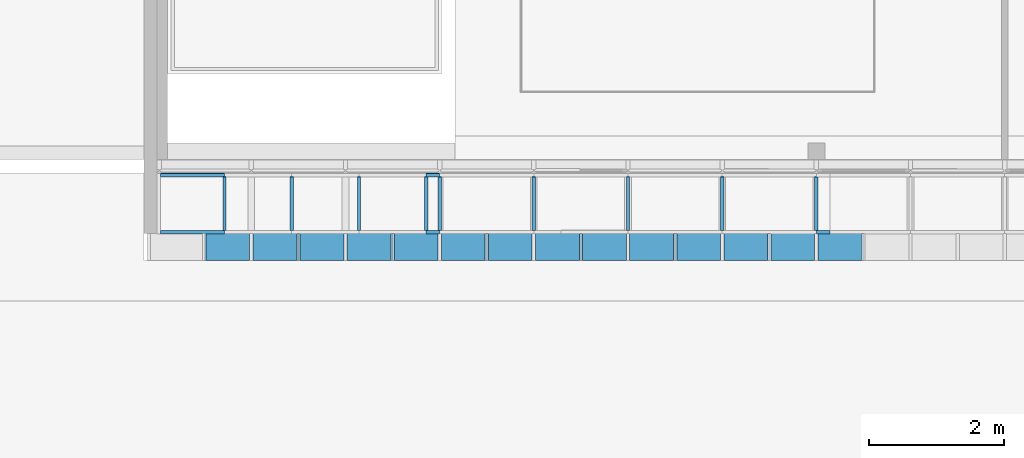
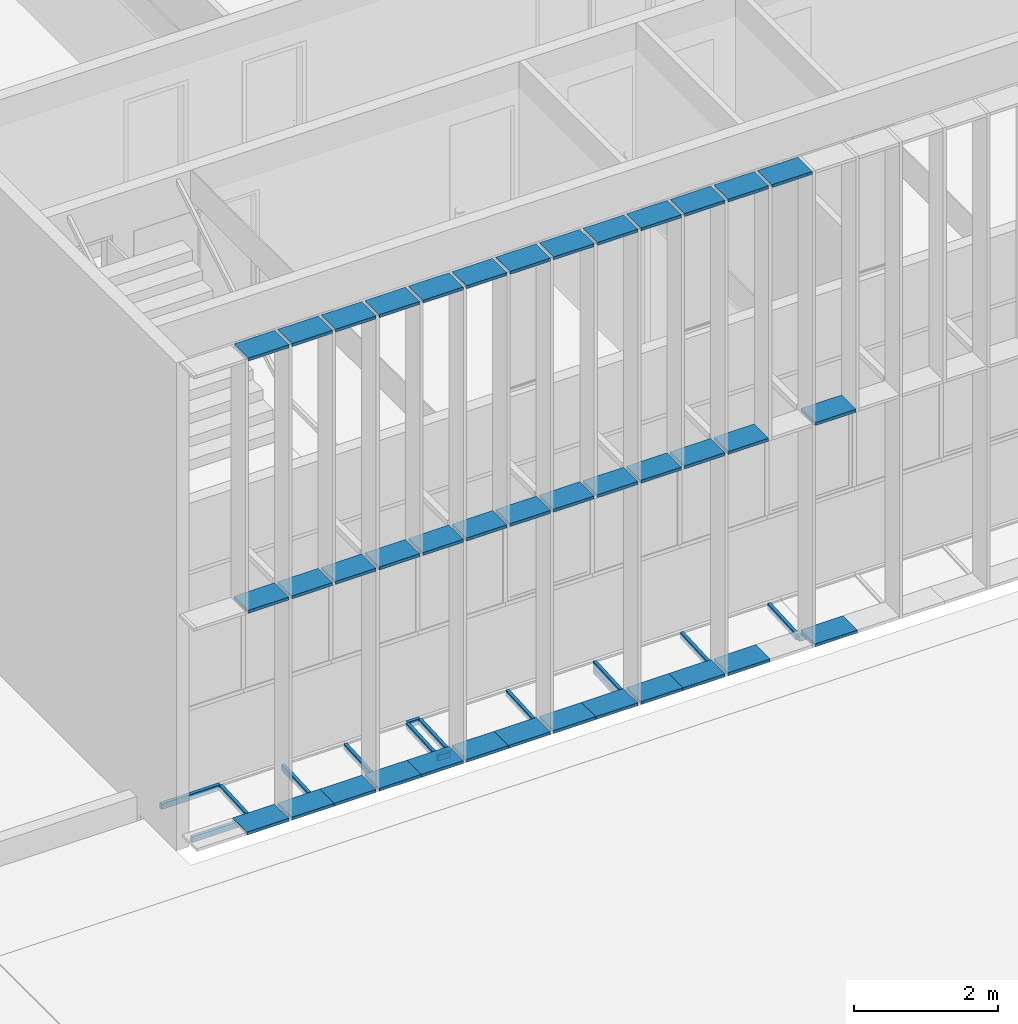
# One storey, part 20 of 106: 54 members, 2 elements without a shape of their own.
"""IFC2X3 building model written with IfcOpenShell, lengths in centimetres."""

from ifc_helpers import new_model, entity, si_unit, converted_unit, derived_unit, direction, frame, origin, origin_2d_with_axis, place, context, subcontext, project, spatial, rectangle, extrude, source, transform, mapped, material, type_object, type_shapes, element, aggregate, save


model = new_model("IFC2X3")

# Units and contexts
model_context = context("Model", 3, precision=0.001, world=origin(), true_north=direction((6.12303176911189e-17, 1.0)))
body_context = subcontext(model_context, "Body", "Model", "MODEL_VIEW")
ifc_project = project(units=[si_unit("LENGTHUNIT", "METRE", prefix="CENTI"), si_unit("AREAUNIT", "SQUARE_METRE"), si_unit("VOLUMEUNIT", "CUBIC_METRE"), converted_unit("PLANEANGLEUNIT", "DEGREE", entity("IfcRatioMeasure", 0.0174532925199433), si_unit("PLANEANGLEUNIT", "RADIAN"), dimensions=[0, 0, 0, 0, 0, 0, 0]), si_unit("MASSUNIT", "GRAM", prefix="KILO"), derived_unit("MASSDENSITYUNIT", [(si_unit("MASSUNIT", "GRAM", prefix="KILO"), 1), (si_unit("LENGTHUNIT", "METRE"), -3)]), si_unit("TIMEUNIT", "SECOND"), si_unit("FREQUENCYUNIT", "HERTZ"), si_unit("THERMODYNAMICTEMPERATUREUNIT", "DEGREE_CELSIUS"), derived_unit("THERMALTRANSMITTANCEUNIT", [(si_unit("MASSUNIT", "GRAM", prefix="KILO"), 1), (si_unit("THERMODYNAMICTEMPERATUREUNIT", "KELVIN"), -1), (si_unit("TIMEUNIT", "SECOND"), -3)]), derived_unit("VOLUMETRICFLOWRATEUNIT", [(si_unit("LENGTHUNIT", "METRE"), 3), (si_unit("TIMEUNIT", "SECOND"), -1)]), si_unit("ELECTRICCURRENTUNIT", "AMPERE"), si_unit("ELECTRICVOLTAGEUNIT", "VOLT"), si_unit("POWERUNIT", "WATT"), si_unit("FORCEUNIT", "NEWTON", prefix="KILO"), si_unit("ILLUMINANCEUNIT", "LUX"), si_unit("LUMINOUSFLUXUNIT", "LUMEN"), si_unit("LUMINOUSINTENSITYUNIT", "CANDELA"), derived_unit("USERDEFINED", [(si_unit("MASSUNIT", "GRAM", prefix="KILO"), -1), (si_unit("LENGTHUNIT", "METRE"), -2), (si_unit("TIMEUNIT", "SECOND"), 3), (si_unit("LUMINOUSFLUXUNIT", "LUMEN"), 1)]), derived_unit("LINEARVELOCITYUNIT", [(si_unit("LENGTHUNIT", "METRE"), 1), (si_unit("TIMEUNIT", "SECOND"), -1)]), si_unit("PRESSUREUNIT", "PASCAL"), derived_unit("USERDEFINED", [(si_unit("LENGTHUNIT", "METRE"), -2), (si_unit("MASSUNIT", "GRAM", prefix="KILO"), 1), (si_unit("TIMEUNIT", "SECOND"), -2)])], contexts=[model_context])

# Site, building, storey
site_placement = place(None, frame((-2781.94577612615, 7442.24238424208, 0.0)))
site = spatial("IfcSite", under=ifc_project, at=site_placement, Name="Default", CompositionType="ELEMENT")
building_placement = place(site_placement, origin())
building = spatial("IfcBuilding", under=site, at=building_placement, CompositionType="ELEMENT")
storey_placement = place(building_placement, frame((0.0, 0.0, 422.0)))
storey = spatial("IfcBuildingStorey", under=building, at=storey_placement, Name="Toiture - Cuisine", CompositionType="ELEMENT", Elevation=421.999999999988)

# Roof, members
curtain_wall_type_1 = type_object("IfcCurtainWallType", Name="Vitres inclinées:Toit en verre 1 m x 2 m", PredefinedType="NOTDEFINED")
roof_placement = place(building_placement, origin())
roof = element("IfcRoof", 1, at=roof_placement, inside=storey, type_object=curtain_wall_type_1, Name="Vitres inclinées:Toit en verre 1 m x 2 m", ObjectType="Vitres inclinées:Toit en verre 1 m x 2 m", ShapeType="NOTDEFINED")
ifc_material_1 = material(Name="Plastique, blanc opaque")
member_type_1 = type_object("IfcMemberType", Name="100 x 50mm", PredefinedType="MEMBER")
shared_shape_1 = source(origin(), body_context, "Body", "SweptSolid", [
    extrude(rectangle(XDim=10.0, YDim=5.0, at=origin_2d_with_axis()), frame((-2.5, 0.0, -95.0), z_axis=(0.0, 0.0, 1.0), x_axis=(0.0, -1.0, 0.0)), (0.0, 0.0, 1.0), 95.0000000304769),
])
type_shapes(member_type_1, [shared_shape_1])
member_1_placement = place(building_placement, frame((-8404.49987766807, -1950.34071342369, 362.709847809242), z_axis=(-1.0, 0.0, 0.0), x_axis=(0.0, 0.998629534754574, 0.0523359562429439)))
member_1 = element("IfcMember", 2, at=member_1_placement, type_object=member_type_1, material=ifc_material_1, Name="Meneau rectangulaire:100 x 50mm", ObjectType="Meneau rectangulaire:100 x 50mm", context=body_context, shape_type="MappedRepresentation", body=[
    mapped(shared_shape_1, transform((0.0, 0.0, 0.0), scale=1.0)),
])
member_type_2 = type_object("IfcMemberType", Name="100 x 50mm", PredefinedType="MEMBER")
shared_shape_2 = source(origin(), body_context, "Body", "SweptSolid", [
    extrude(rectangle(XDim=10.0, YDim=5.0, at=origin_2d_with_axis()), frame((-2.5, 0.0, -20.0), z_axis=(0.0, 0.0, 1.0), x_axis=(0.0, -1.0, 0.0)), (0.0, 0.0, 1.0), 19.9999999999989),
])
type_shapes(member_type_2, [shared_shape_2])
member_2_placement = place(building_placement, frame((-8009.49987763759, -1950.34071342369, 362.709847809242), z_axis=(-1.0, 0.0, 0.0), x_axis=(0.0, 0.998629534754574, 0.0523359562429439)))
member_2 = element("IfcMember", 3, at=member_2_placement, type_object=member_type_2, material=ifc_material_1, Name="Meneau rectangulaire:100 x 50mm", ObjectType="Meneau rectangulaire:100 x 50mm", context=body_context, shape_type="MappedRepresentation", body=[
    mapped(shared_shape_2, transform((0.0, 0.0, 0.0), scale=1.0)),
])
member_type_3 = type_object("IfcMemberType", Name="100 x 50mm", PredefinedType="MEMBER")
shared_shape_3 = source(origin(), body_context, "Body", "SweptSolid", [
    extrude(rectangle(XDim=10.0, YDim=5.0, at=origin_2d_with_axis()), frame((-2.5, 0.0, -95.0), z_axis=(0.0, 0.0, 1.0), x_axis=(0.0, -1.0, 0.0)), (0.0, 0.0, 1.0), 95.0000000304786),
])
type_shapes(member_type_3, [shared_shape_3])
member_3_placement = place(building_placement, frame((-8309.49987763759, -2040.34071342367, 357.99314767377), z_axis=(1.0, 0.0, 0.0), x_axis=(0.0, -0.998629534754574, -0.0523359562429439)))
member_3 = element("IfcMember", 4, at=member_3_placement, type_object=member_type_3, material=ifc_material_1, Name="Meneau rectangulaire:100 x 50mm", ObjectType="Meneau rectangulaire:100 x 50mm", context=body_context, shape_type="MappedRepresentation", body=[
    mapped(shared_shape_3, transform((0.0, 0.0, 0.0), scale=1.0)),
])
member_type_4 = type_object("IfcMemberType", Name="100 x 50mm", PredefinedType="MEMBER")
shared_shape_4 = source(origin(), body_context, "Body", "SweptSolid", [
    extrude(rectangle(XDim=10.0, YDim=5.0, at=origin_2d_with_axis()), frame((-2.5, 0.0, -20.0), z_axis=(0.0, 0.0, 1.0), x_axis=(0.0, -1.0, 0.0)), (0.0, 0.0, 1.0), 19.9999999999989),
])
type_shapes(member_type_4, [shared_shape_4])
member_4_placement = place(building_placement, frame((-7989.49987763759, -2040.34071342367, 357.99314767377), z_axis=(1.0, 0.0, 0.0), x_axis=(0.0, -0.998629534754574, -0.0523359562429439)))
member_4 = element("IfcMember", 5, at=member_4_placement, type_object=member_type_4, material=ifc_material_1, Name="Meneau rectangulaire:100 x 50mm", ObjectType="Meneau rectangulaire:100 x 50mm", context=body_context, shape_type="MappedRepresentation", body=[
    mapped(shared_shape_4, transform((0.0, 0.0, 0.0), scale=1.0)),
])
member_type_5 = type_object("IfcMemberType", Name="100 x 50mm", PredefinedType="MEMBER")
shared_shape_5 = source(origin(), body_context, "Body", "SweptSolid", [
    extrude(rectangle(XDim=10.0, YDim=5.0, at=origin_2d_with_axis()), frame((-2.5, 0.0, -20.0001640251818), z_axis=(0.0, 0.0, 1.0), x_axis=(0.0, -1.0, 0.0)), (0.0, 0.0, 1.0), 20.0001640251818),
])
type_shapes(member_type_5, [shared_shape_5])
member_5_placement = place(building_placement, frame((-7409.49987763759, -2040.34071342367, 357.99314767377), z_axis=(1.0, 0.0, 0.0), x_axis=(0.0, -0.998629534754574, -0.0523359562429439)))
member_5 = element("IfcMember", 6, at=member_5_placement, type_object=member_type_5, material=ifc_material_1, Name="Meneau rectangulaire:100 x 50mm", ObjectType="Meneau rectangulaire:100 x 50mm", context=body_context, shape_type="MappedRepresentation", body=[
    mapped(shared_shape_5, transform((0.0, 0.0, 0.0), scale=1.0)),
])
member_type_6 = type_object("IfcMemberType", Name="100 x 50mm", PredefinedType="MEMBER")
shared_shape_6 = source(origin(), body_context, "Body", "SweptSolid", [
    extrude(rectangle(XDim=10.0, YDim=5.0, at=origin_2d_with_axis()), frame((0.0, 0.0, -80.1235111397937), z_axis=(0.0, 0.0, 1.0), x_axis=(0.0, -1.0, 0.0)), (0.0, 0.0, 1.0), 80.1235111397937),
])
type_shapes(member_type_6, [shared_shape_6])
member_6_placement = place(building_placement, frame((-8309.49987763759, -1955.33386109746, 362.448168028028), z_axis=(0.0, 0.998629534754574, 0.0523359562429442), x_axis=(1.0, 0.0, 0.0)))
member_6 = element("IfcMember", 7, at=member_6_placement, type_object=member_type_6, material=ifc_material_1, Name="Meneau rectangulaire:100 x 50mm", ObjectType="Meneau rectangulaire:100 x 50mm", context=body_context, shape_type="MappedRepresentation", body=[
    mapped(shared_shape_6, transform((0.0, 0.0, 0.0), scale=1.0)),
])
member_7_placement = place(building_placement, frame((-8209.49987763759, -1955.33386109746, 362.448168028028), z_axis=(0.0, 0.998629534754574, 0.0523359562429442), x_axis=(1.0, 0.0, 0.0)))
member_7 = element("IfcMember", 8, at=member_7_placement, type_object=member_type_6, material=ifc_material_1, Name="Meneau rectangulaire:100 x 50mm", ObjectType="Meneau rectangulaire:100 x 50mm", context=body_context, shape_type="MappedRepresentation", body=[
    mapped(shared_shape_6, transform((0.0, 0.0, 0.0), scale=1.0)),
])
member_8_placement = place(building_placement, frame((-8109.49987763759, -1955.33386109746, 362.448168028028), z_axis=(0.0, 0.998629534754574, 0.0523359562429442), x_axis=(1.0, 0.0, 0.0)))
member_8 = element("IfcMember", 9, at=member_8_placement, type_object=member_type_6, material=ifc_material_1, Name="Meneau rectangulaire:100 x 50mm", ObjectType="Meneau rectangulaire:100 x 50mm", context=body_context, shape_type="MappedRepresentation", body=[
    mapped(shared_shape_6, transform((0.0, 0.0, 0.0), scale=1.0)),
])
member_9_placement = place(building_placement, frame((-8009.49987763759, -1955.33386109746, 362.448168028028), z_axis=(0.0, 0.998629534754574, 0.0523359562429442), x_axis=(1.0, 0.0, 0.0)))
member_9 = element("IfcMember", 10, at=member_9_placement, type_object=member_type_6, material=ifc_material_1, Name="Meneau rectangulaire:100 x 50mm", ObjectType="Meneau rectangulaire:100 x 50mm", context=body_context, shape_type="MappedRepresentation", body=[
    mapped(shared_shape_6, transform((0.0, 0.0, 0.0), scale=1.0)),
])
member_10_placement = place(building_placement, frame((-7989.49987763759, -1955.33386109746, 362.448168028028), z_axis=(0.0, 0.998629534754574, 0.0523359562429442), x_axis=(1.0, 0.0, 0.0)))
member_10 = element("IfcMember", 11, at=member_10_placement, type_object=member_type_6, material=ifc_material_1, Name="Meneau rectangulaire:100 x 50mm", ObjectType="Meneau rectangulaire:100 x 50mm", context=body_context, shape_type="MappedRepresentation", body=[
    mapped(shared_shape_6, transform((0.0, 0.0, 0.0), scale=1.0)),
])
member_11_placement = place(building_placement, frame((-7849.49987763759, -1955.33386109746, 362.448168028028), z_axis=(0.0, 0.998629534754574, 0.0523359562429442), x_axis=(1.0, 0.0, 0.0)))
member_11 = element("IfcMember", 12, at=member_11_placement, type_object=member_type_6, material=ifc_material_1, Name="Meneau rectangulaire:100 x 50mm", ObjectType="Meneau rectangulaire:100 x 50mm", context=body_context, shape_type="MappedRepresentation", body=[
    mapped(shared_shape_6, transform((0.0, 0.0, 0.0), scale=1.0)),
])
member_12_placement = place(building_placement, frame((-7709.49987763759, -1955.07218131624, 352.455020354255), z_axis=(0.0, 0.998629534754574, 0.0523359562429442), x_axis=(1.0, 0.0, 0.0)))
member_12 = element("IfcMember", 13, at=member_12_placement, type_object=member_type_6, material=ifc_material_1, Name="Meneau rectangulaire:100 x 50mm", ObjectType="Meneau rectangulaire:100 x 50mm", context=body_context, shape_type="MappedRepresentation", body=[
    mapped(shared_shape_6, transform((0.0, 0.0, 0.0), scale=1.0)),
])
member_13_placement = place(building_placement, frame((-7709.49987763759, -1955.33386109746, 362.448168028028), z_axis=(0.0, 0.998629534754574, 0.0523359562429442), x_axis=(1.0, 0.0, 0.0)))
member_13 = element("IfcMember", 14, at=member_13_placement, type_object=member_type_6, material=ifc_material_1, Name="Meneau rectangulaire:100 x 50mm", ObjectType="Meneau rectangulaire:100 x 50mm", context=body_context, shape_type="MappedRepresentation", body=[
    mapped(shared_shape_6, transform((0.0, 0.0, 0.0), scale=1.0)),
])
member_14_placement = place(building_placement, frame((-7569.49987763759, -1955.33386109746, 362.448168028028), z_axis=(0.0, 0.998629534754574, 0.0523359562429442), x_axis=(1.0, 0.0, 0.0)))
member_14 = element("IfcMember", 15, at=member_14_placement, type_object=member_type_6, material=ifc_material_1, Name="Meneau rectangulaire:100 x 50mm", ObjectType="Meneau rectangulaire:100 x 50mm", context=body_context, shape_type="MappedRepresentation", body=[
    mapped(shared_shape_6, transform((0.0, 0.0, 0.0), scale=1.0)),
])
member_15_placement = place(building_placement, frame((-7429.49987763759, -1955.33386109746, 362.448168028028), z_axis=(0.0, 0.998629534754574, 0.0523359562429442), x_axis=(1.0, 0.0, 0.0)))
member_15 = element("IfcMember", 16, at=member_15_placement, type_object=member_type_6, material=ifc_material_1, Name="Meneau rectangulaire:100 x 50mm", ObjectType="Meneau rectangulaire:100 x 50mm", context=body_context, shape_type="MappedRepresentation", body=[
    mapped(shared_shape_6, transform((0.0, 0.0, 0.0), scale=1.0)),
])
aggregate(roof, [member_1, member_2, member_3, member_4, member_5, member_6, member_7, member_8, member_9, member_10, member_11, member_12, member_13, member_14, member_15])

# Curtain wall, members
curtain_wall_type_2 = type_object("IfcCurtainWallType", Name="Mur-rideau:Epines - 400x30mm", PredefinedType="NOTDEFINED")
curtain_wall_placement = place(building_placement, origin())
curtain_wall = element("IfcCurtainWall", 17, at=curtain_wall_placement, inside=storey, type_object=curtain_wall_type_2, Name="Mur-rideau:Epines - 400x30mm", ObjectType="Mur-rideau:Epines - 400x30mm")
ifc_material_2 = material(Name="Aluminium")
member_type_7 = type_object("IfcMemberType", Name="Epine sud (400x50 mm)", PredefinedType="MEMBER")
shared_shape_7 = source(origin(), body_context, "Body", "SweptSolid", [
    extrude(rectangle(XDim=40.0, YDim=5.0, at=origin_2d_with_axis()), frame((-2.5, 0.0, -65.0), z_axis=(0.0, 0.0, 1.0), x_axis=(0.0, -1.0, 0.0)), (0.0, 0.0, 1.0), 64.9999999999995),
])
type_shapes(member_type_7, [shared_shape_7])
member_16_placement = place(building_placement, frame((-8271.99987763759, -2060.07903364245, 1176.0), z_axis=(1.0, 0.0, 0.0), x_axis=(0.0, 0.0, 1.0)))
member_16 = element("IfcMember", 18, at=member_16_placement, type_object=member_type_7, material=ifc_material_2, Name="Meneau rectangulaire:Epine sud (400x50 mm)", ObjectType="Meneau rectangulaire:Epine sud (400x50 mm)", context=body_context, shape_type="MappedRepresentation", body=[
    mapped(shared_shape_7, transform((0.0, 0.0, 0.0), scale=1.0)),
])
member_17_placement = place(building_placement, frame((-8131.99987763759, -2060.07903364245, 1176.0), z_axis=(1.0, 0.0, 0.0), x_axis=(0.0, 0.0, 1.0)))
member_17 = element("IfcMember", 19, at=member_17_placement, type_object=member_type_7, material=ifc_material_2, Name="Meneau rectangulaire:Epine sud (400x50 mm)", ObjectType="Meneau rectangulaire:Epine sud (400x50 mm)", context=body_context, shape_type="MappedRepresentation", body=[
    mapped(shared_shape_7, transform((0.0, 0.0, 0.0), scale=1.0)),
])
member_18_placement = place(building_placement, frame((-7991.9998776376, -2060.07903364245, 1176.0), z_axis=(1.0, 0.0, 0.0), x_axis=(0.0, 0.0, 1.0)))
member_18 = element("IfcMember", 20, at=member_18_placement, type_object=member_type_7, material=ifc_material_2, Name="Meneau rectangulaire:Epine sud (400x50 mm)", ObjectType="Meneau rectangulaire:Epine sud (400x50 mm)", context=body_context, shape_type="MappedRepresentation", body=[
    mapped(shared_shape_7, transform((0.0, 0.0, 0.0), scale=1.0)),
])
member_19_placement = place(building_placement, frame((-7851.99987763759, -2060.07903364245, 1176.0), z_axis=(1.0, 0.0, 0.0), x_axis=(0.0, 0.0, 1.0)))
member_19 = element("IfcMember", 21, at=member_19_placement, type_object=member_type_7, material=ifc_material_2, Name="Meneau rectangulaire:Epine sud (400x50 mm)", ObjectType="Meneau rectangulaire:Epine sud (400x50 mm)", context=body_context, shape_type="MappedRepresentation", body=[
    mapped(shared_shape_7, transform((0.0, 0.0, 0.0), scale=1.0)),
])
member_20_placement = place(building_placement, frame((-7711.99987763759, -2060.07903364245, 1176.0), z_axis=(1.0, 0.0, 0.0), x_axis=(0.0, 0.0, 1.0)))
member_20 = element("IfcMember", 22, at=member_20_placement, type_object=member_type_7, material=ifc_material_2, Name="Meneau rectangulaire:Epine sud (400x50 mm)", ObjectType="Meneau rectangulaire:Epine sud (400x50 mm)", context=body_context, shape_type="MappedRepresentation", body=[
    mapped(shared_shape_7, transform((0.0, 0.0, 0.0), scale=1.0)),
])
member_21_placement = place(building_placement, frame((-7571.99987763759, -2060.07903364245, 1176.0), z_axis=(1.0, 0.0, 0.0), x_axis=(0.0, 0.0, 1.0)))
member_21 = element("IfcMember", 23, at=member_21_placement, type_object=member_type_7, material=ifc_material_2, Name="Meneau rectangulaire:Epine sud (400x50 mm)", ObjectType="Meneau rectangulaire:Epine sud (400x50 mm)", context=body_context, shape_type="MappedRepresentation", body=[
    mapped(shared_shape_7, transform((0.0, 0.0, 0.0), scale=1.0)),
])
member_22_placement = place(building_placement, frame((-7431.9998776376, -2060.07903364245, 1176.0), z_axis=(1.0, 0.0, 0.0), x_axis=(0.0, 0.0, 1.0)))
member_22 = element("IfcMember", 24, at=member_22_placement, type_object=member_type_7, material=ifc_material_2, Name="Meneau rectangulaire:Epine sud (400x50 mm)", ObjectType="Meneau rectangulaire:Epine sud (400x50 mm)", context=body_context, shape_type="MappedRepresentation", body=[
    mapped(shared_shape_7, transform((0.0, 0.0, 0.0), scale=1.0)),
])
member_23_placement = place(building_placement, frame((-8201.99987763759, -2060.07903364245, 1176.0), z_axis=(1.0, 0.0, 0.0), x_axis=(0.0, 0.0, 1.0)))
member_23 = element("IfcMember", 25, at=member_23_placement, type_object=member_type_7, material=ifc_material_2, Name="Meneau rectangulaire:Epine sud (400x50 mm)", ObjectType="Meneau rectangulaire:Epine sud (400x50 mm)", context=body_context, shape_type="MappedRepresentation", body=[
    mapped(shared_shape_7, transform((0.0, 0.0, 0.0), scale=1.0)),
])
member_24_placement = place(building_placement, frame((-8061.99987763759, -2060.07903364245, 1176.0), z_axis=(1.0, 0.0, 0.0), x_axis=(0.0, 0.0, 1.0)))
member_24 = element("IfcMember", 26, at=member_24_placement, type_object=member_type_7, material=ifc_material_2, Name="Meneau rectangulaire:Epine sud (400x50 mm)", ObjectType="Meneau rectangulaire:Epine sud (400x50 mm)", context=body_context, shape_type="MappedRepresentation", body=[
    mapped(shared_shape_7, transform((0.0, 0.0, 0.0), scale=1.0)),
])
member_25_placement = place(building_placement, frame((-7921.99987763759, -2060.07903364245, 1176.0), z_axis=(1.0, 0.0, 0.0), x_axis=(0.0, 0.0, 1.0)))
member_25 = element("IfcMember", 27, at=member_25_placement, type_object=member_type_7, material=ifc_material_2, Name="Meneau rectangulaire:Epine sud (400x50 mm)", ObjectType="Meneau rectangulaire:Epine sud (400x50 mm)", context=body_context, shape_type="MappedRepresentation", body=[
    mapped(shared_shape_7, transform((0.0, 0.0, 0.0), scale=1.0)),
])
member_26_placement = place(building_placement, frame((-7781.9998776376, -2060.07903364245, 1176.0), z_axis=(1.0, 0.0, 0.0), x_axis=(0.0, 0.0, 1.0)))
member_26 = element("IfcMember", 28, at=member_26_placement, type_object=member_type_7, material=ifc_material_2, Name="Meneau rectangulaire:Epine sud (400x50 mm)", ObjectType="Meneau rectangulaire:Epine sud (400x50 mm)", context=body_context, shape_type="MappedRepresentation", body=[
    mapped(shared_shape_7, transform((0.0, 0.0, 0.0), scale=1.0)),
])
member_27_placement = place(building_placement, frame((-7641.99987763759, -2060.07903364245, 1176.0), z_axis=(1.0, 0.0, 0.0), x_axis=(0.0, 0.0, 1.0)))
member_27 = element("IfcMember", 29, at=member_27_placement, type_object=member_type_7, material=ifc_material_2, Name="Meneau rectangulaire:Epine sud (400x50 mm)", ObjectType="Meneau rectangulaire:Epine sud (400x50 mm)", context=body_context, shape_type="MappedRepresentation", body=[
    mapped(shared_shape_7, transform((0.0, 0.0, 0.0), scale=1.0)),
])
member_28_placement = place(building_placement, frame((-7501.99987763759, -2060.07903364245, 1176.0), z_axis=(1.0, 0.0, 0.0), x_axis=(0.0, 0.0, 1.0)))
member_28 = element("IfcMember", 30, at=member_28_placement, type_object=member_type_7, material=ifc_material_2, Name="Meneau rectangulaire:Epine sud (400x50 mm)", ObjectType="Meneau rectangulaire:Epine sud (400x50 mm)", context=body_context, shape_type="MappedRepresentation", body=[
    mapped(shared_shape_7, transform((0.0, 0.0, 0.0), scale=1.0)),
])
member_type_8 = type_object("IfcMemberType", Name="Epine sud (400x50 mm)", PredefinedType="MEMBER")
shared_shape_8 = source(origin(), body_context, "Body", "SweptSolid", [
    extrude(rectangle(XDim=40.0, YDim=5.0, at=origin_2d_with_axis()), frame((-2.5, 0.0, -67.4999999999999), z_axis=(0.0, 0.0, 1.0), x_axis=(0.0, -1.0, 0.0)), (0.0, 0.0, 1.0), 67.5000000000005),
])
type_shapes(member_type_8, [shared_shape_8])
member_29_placement = place(building_placement, frame((-8266.99987763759, -2060.07903364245, 367.449291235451), z_axis=(-1.0, 0.0, 0.0), x_axis=(0.0, 0.0, -1.0)))
member_29 = element("IfcMember", 31, at=member_29_placement, type_object=member_type_8, material=ifc_material_2, Name="Meneau rectangulaire:Epine sud (400x50 mm)", ObjectType="Meneau rectangulaire:Epine sud (400x50 mm)", context=body_context, shape_type="MappedRepresentation", body=[
    mapped(shared_shape_8, transform((0.0, 0.0, 0.0), scale=1.0)),
])
member_30_placement = place(building_placement, frame((-8126.9998776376, -2060.07903364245, 367.449291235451), z_axis=(-1.0, 0.0, 0.0), x_axis=(0.0, 0.0, -1.0)))
member_30 = element("IfcMember", 32, at=member_30_placement, type_object=member_type_8, material=ifc_material_2, Name="Meneau rectangulaire:Epine sud (400x50 mm)", ObjectType="Meneau rectangulaire:Epine sud (400x50 mm)", context=body_context, shape_type="MappedRepresentation", body=[
    mapped(shared_shape_8, transform((0.0, 0.0, 0.0), scale=1.0)),
])
member_31_placement = place(building_placement, frame((-7986.9998776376, -2060.07903364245, 367.449291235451), z_axis=(-1.0, 0.0, 0.0), x_axis=(0.0, 0.0, -1.0)))
member_31 = element("IfcMember", 33, at=member_31_placement, type_object=member_type_8, material=ifc_material_2, Name="Meneau rectangulaire:Epine sud (400x50 mm)", ObjectType="Meneau rectangulaire:Epine sud (400x50 mm)", context=body_context, shape_type="MappedRepresentation", body=[
    mapped(shared_shape_8, transform((0.0, 0.0, 0.0), scale=1.0)),
])
member_32_placement = place(building_placement, frame((-7846.9998776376, -2060.07903364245, 367.449291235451), z_axis=(-1.0, 0.0, 0.0), x_axis=(0.0, 0.0, -1.0)))
member_32 = element("IfcMember", 34, at=member_32_placement, type_object=member_type_8, material=ifc_material_2, Name="Meneau rectangulaire:Epine sud (400x50 mm)", ObjectType="Meneau rectangulaire:Epine sud (400x50 mm)", context=body_context, shape_type="MappedRepresentation", body=[
    mapped(shared_shape_8, transform((0.0, 0.0, 0.0), scale=1.0)),
])
member_33_placement = place(building_placement, frame((-7706.99987763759, -2060.07903364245, 367.449291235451), z_axis=(-1.0, 0.0, 0.0), x_axis=(0.0, 0.0, -1.0)))
member_33 = element("IfcMember", 35, at=member_33_placement, type_object=member_type_8, material=ifc_material_2, Name="Meneau rectangulaire:Epine sud (400x50 mm)", ObjectType="Meneau rectangulaire:Epine sud (400x50 mm)", context=body_context, shape_type="MappedRepresentation", body=[
    mapped(shared_shape_8, transform((0.0, 0.0, 0.0), scale=1.0)),
])
member_34_placement = place(building_placement, frame((-7566.99987763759, -2060.07903364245, 367.449291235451), z_axis=(-1.0, 0.0, 0.0), x_axis=(0.0, 0.0, -1.0)))
member_34 = element("IfcMember", 36, at=member_34_placement, type_object=member_type_8, material=ifc_material_2, Name="Meneau rectangulaire:Epine sud (400x50 mm)", ObjectType="Meneau rectangulaire:Epine sud (400x50 mm)", context=body_context, shape_type="MappedRepresentation", body=[
    mapped(shared_shape_8, transform((0.0, 0.0, 0.0), scale=1.0)),
])
member_35_placement = place(building_placement, frame((-7426.99987763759, -2060.07903364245, 367.449291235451), z_axis=(-1.0, 0.0, 0.0), x_axis=(0.0, 0.0, -1.0)))
member_35 = element("IfcMember", 37, at=member_35_placement, type_object=member_type_8, material=ifc_material_2, Name="Meneau rectangulaire:Epine sud (400x50 mm)", ObjectType="Meneau rectangulaire:Epine sud (400x50 mm)", context=body_context, shape_type="MappedRepresentation", body=[
    mapped(shared_shape_8, transform((0.0, 0.0, 0.0), scale=1.0)),
])
member_type_9 = type_object("IfcMemberType", Name="Epine sud (400x50 mm)", PredefinedType="MEMBER")
shared_shape_9 = source(origin(), body_context, "Body", "SweptSolid", [
    extrude(rectangle(XDim=40.0, YDim=5.0, at=origin_2d_with_axis()), frame((0.0, 0.0, -65.0), z_axis=(0.0, 0.0, 1.0), x_axis=(0.0, -1.0, 0.0)), (0.0, 0.0, 1.0), 65.0000000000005),
])
type_shapes(member_type_9, [shared_shape_9])
member_36_placement = place(building_placement, frame((-8201.99987763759, -2060.07903364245, 745.4), z_axis=(1.0, 0.0, 0.0), x_axis=(0.0, 0.0, 1.0)))
member_36 = element("IfcMember", 38, at=member_36_placement, type_object=member_type_9, material=ifc_material_2, Name="Meneau rectangulaire:Epine sud (400x50 mm)", ObjectType="Meneau rectangulaire:Epine sud (400x50 mm)", context=body_context, shape_type="MappedRepresentation", body=[
    mapped(shared_shape_9, transform((0.0, 0.0, 0.0), scale=1.0)),
])
member_37_placement = place(building_placement, frame((-8061.99987763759, -2060.07903364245, 745.4), z_axis=(1.0, 0.0, 0.0), x_axis=(0.0, 0.0, 1.0)))
member_37 = element("IfcMember", 39, at=member_37_placement, type_object=member_type_9, material=ifc_material_2, Name="Meneau rectangulaire:Epine sud (400x50 mm)", ObjectType="Meneau rectangulaire:Epine sud (400x50 mm)", context=body_context, shape_type="MappedRepresentation", body=[
    mapped(shared_shape_9, transform((0.0, 0.0, 0.0), scale=1.0)),
])
member_38_placement = place(building_placement, frame((-7921.99987763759, -2060.07903364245, 745.4), z_axis=(1.0, 0.0, 0.0), x_axis=(0.0, 0.0, 1.0)))
member_38 = element("IfcMember", 40, at=member_38_placement, type_object=member_type_9, material=ifc_material_2, Name="Meneau rectangulaire:Epine sud (400x50 mm)", ObjectType="Meneau rectangulaire:Epine sud (400x50 mm)", context=body_context, shape_type="MappedRepresentation", body=[
    mapped(shared_shape_9, transform((0.0, 0.0, 0.0), scale=1.0)),
])
member_39_placement = place(building_placement, frame((-7781.9998776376, -2060.07903364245, 745.4), z_axis=(1.0, 0.0, 0.0), x_axis=(0.0, 0.0, 1.0)))
member_39 = element("IfcMember", 41, at=member_39_placement, type_object=member_type_9, material=ifc_material_2, Name="Meneau rectangulaire:Epine sud (400x50 mm)", ObjectType="Meneau rectangulaire:Epine sud (400x50 mm)", context=body_context, shape_type="MappedRepresentation", body=[
    mapped(shared_shape_9, transform((0.0, 0.0, 0.0), scale=1.0)),
])
member_40_placement = place(building_placement, frame((-7641.99987763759, -2060.07903364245, 745.4), z_axis=(1.0, 0.0, 0.0), x_axis=(0.0, 0.0, 1.0)))
member_40 = element("IfcMember", 42, at=member_40_placement, type_object=member_type_9, material=ifc_material_2, Name="Meneau rectangulaire:Epine sud (400x50 mm)", ObjectType="Meneau rectangulaire:Epine sud (400x50 mm)", context=body_context, shape_type="MappedRepresentation", body=[
    mapped(shared_shape_9, transform((0.0, 0.0, 0.0), scale=1.0)),
])
member_41_placement = place(building_placement, frame((-7501.99987763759, -2060.07903364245, 745.4), z_axis=(1.0, 0.0, 0.0), x_axis=(0.0, 0.0, 1.0)))
member_41 = element("IfcMember", 43, at=member_41_placement, type_object=member_type_9, material=ifc_material_2, Name="Meneau rectangulaire:Epine sud (400x50 mm)", ObjectType="Meneau rectangulaire:Epine sud (400x50 mm)", context=body_context, shape_type="MappedRepresentation", body=[
    mapped(shared_shape_9, transform((0.0, 0.0, 0.0), scale=1.0)),
])
member_42_placement = place(building_placement, frame((-7361.99987763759, -2060.07903364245, 745.4), z_axis=(1.0, 0.0, 0.0), x_axis=(0.0, 0.0, 1.0)))
member_42 = element("IfcMember", 44, at=member_42_placement, type_object=member_type_9, material=ifc_material_2, Name="Meneau rectangulaire:Epine sud (400x50 mm)", ObjectType="Meneau rectangulaire:Epine sud (400x50 mm)", context=body_context, shape_type="MappedRepresentation", body=[
    mapped(shared_shape_9, transform((0.0, 0.0, 0.0), scale=1.0)),
])
member_43_placement = place(building_placement, frame((-8271.99987763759, -2060.07903364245, 745.4), z_axis=(1.0, 0.0, 0.0), x_axis=(0.0, 0.0, 1.0)))
member_43 = element("IfcMember", 45, at=member_43_placement, type_object=member_type_9, material=ifc_material_2, Name="Meneau rectangulaire:Epine sud (400x50 mm)", ObjectType="Meneau rectangulaire:Epine sud (400x50 mm)", context=body_context, shape_type="MappedRepresentation", body=[
    mapped(shared_shape_9, transform((0.0, 0.0, 0.0), scale=1.0)),
])
member_44_placement = place(building_placement, frame((-8131.99987763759, -2060.07903364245, 745.4), z_axis=(1.0, 0.0, 0.0), x_axis=(0.0, 0.0, 1.0)))
member_44 = element("IfcMember", 46, at=member_44_placement, type_object=member_type_9, material=ifc_material_2, Name="Meneau rectangulaire:Epine sud (400x50 mm)", ObjectType="Meneau rectangulaire:Epine sud (400x50 mm)", context=body_context, shape_type="MappedRepresentation", body=[
    mapped(shared_shape_9, transform((0.0, 0.0, 0.0), scale=1.0)),
])
member_45_placement = place(building_placement, frame((-7991.9998776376, -2060.07903364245, 745.4), z_axis=(1.0, 0.0, 0.0), x_axis=(0.0, 0.0, 1.0)))
member_45 = element("IfcMember", 47, at=member_45_placement, type_object=member_type_9, material=ifc_material_2, Name="Meneau rectangulaire:Epine sud (400x50 mm)", ObjectType="Meneau rectangulaire:Epine sud (400x50 mm)", context=body_context, shape_type="MappedRepresentation", body=[
    mapped(shared_shape_9, transform((0.0, 0.0, 0.0), scale=1.0)),
])
member_46_placement = place(building_placement, frame((-7851.99987763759, -2060.07903364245, 745.4), z_axis=(1.0, 0.0, 0.0), x_axis=(0.0, 0.0, 1.0)))
member_46 = element("IfcMember", 48, at=member_46_placement, type_object=member_type_9, material=ifc_material_2, Name="Meneau rectangulaire:Epine sud (400x50 mm)", ObjectType="Meneau rectangulaire:Epine sud (400x50 mm)", context=body_context, shape_type="MappedRepresentation", body=[
    mapped(shared_shape_9, transform((0.0, 0.0, 0.0), scale=1.0)),
])
member_47_placement = place(building_placement, frame((-7711.99987763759, -2060.07903364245, 745.4), z_axis=(1.0, 0.0, 0.0), x_axis=(0.0, 0.0, 1.0)))
member_47 = element("IfcMember", 49, at=member_47_placement, type_object=member_type_9, material=ifc_material_2, Name="Meneau rectangulaire:Epine sud (400x50 mm)", ObjectType="Meneau rectangulaire:Epine sud (400x50 mm)", context=body_context, shape_type="MappedRepresentation", body=[
    mapped(shared_shape_9, transform((0.0, 0.0, 0.0), scale=1.0)),
])
member_48_placement = place(building_placement, frame((-7571.99987763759, -2060.07903364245, 745.4), z_axis=(1.0, 0.0, 0.0), x_axis=(0.0, 0.0, 1.0)))
member_48 = element("IfcMember", 50, at=member_48_placement, type_object=member_type_9, material=ifc_material_2, Name="Meneau rectangulaire:Epine sud (400x50 mm)", ObjectType="Meneau rectangulaire:Epine sud (400x50 mm)", context=body_context, shape_type="MappedRepresentation", body=[
    mapped(shared_shape_9, transform((0.0, 0.0, 0.0), scale=1.0)),
])
member_type_10 = type_object("IfcMemberType", Name="Epine sud (400x50 mm)", PredefinedType="MEMBER")
shared_shape_10 = source(origin(), body_context, "Body", "SweptSolid", [
    extrude(rectangle(XDim=40.0, YDim=5.0, at=origin_2d_with_axis()), frame((-2.5, 0.0, -67.4999999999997), z_axis=(0.0, 0.0, 1.0), x_axis=(0.0, -1.0, 0.0)), (0.0, 0.0, 1.0), 67.4999999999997),
])
type_shapes(member_type_10, [shared_shape_10])
member_49_placement = place(building_placement, frame((-8339.4998776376, -2060.07903364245, 367.449291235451), z_axis=(-1.0, 0.0, 0.0), x_axis=(0.0, 0.0, -1.0)))
member_49 = element("IfcMember", 51, at=member_49_placement, type_object=member_type_10, material=ifc_material_2, Name="Meneau rectangulaire:Epine sud (400x50 mm)", ObjectType="Meneau rectangulaire:Epine sud (400x50 mm)", context=body_context, shape_type="MappedRepresentation", body=[
    mapped(shared_shape_10, transform((0.0, 0.0, 0.0), scale=1.0)),
])
member_50_placement = place(building_placement, frame((-8199.49987763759, -2060.07903364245, 367.449291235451), z_axis=(-1.0, 0.0, 0.0), x_axis=(0.0, 0.0, -1.0)))
member_50 = element("IfcMember", 52, at=member_50_placement, type_object=member_type_10, material=ifc_material_2, Name="Meneau rectangulaire:Epine sud (400x50 mm)", ObjectType="Meneau rectangulaire:Epine sud (400x50 mm)", context=body_context, shape_type="MappedRepresentation", body=[
    mapped(shared_shape_10, transform((0.0, 0.0, 0.0), scale=1.0)),
])
member_51_placement = place(building_placement, frame((-8059.4998776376, -2060.07903364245, 367.449291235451), z_axis=(-1.0, 0.0, 0.0), x_axis=(0.0, 0.0, -1.0)))
member_51 = element("IfcMember", 53, at=member_51_placement, type_object=member_type_10, material=ifc_material_2, Name="Meneau rectangulaire:Epine sud (400x50 mm)", ObjectType="Meneau rectangulaire:Epine sud (400x50 mm)", context=body_context, shape_type="MappedRepresentation", body=[
    mapped(shared_shape_10, transform((0.0, 0.0, 0.0), scale=1.0)),
])
member_52_placement = place(building_placement, frame((-7919.49987763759, -2060.07903364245, 367.449291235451), z_axis=(-1.0, 0.0, 0.0), x_axis=(0.0, 0.0, -1.0)))
member_52 = element("IfcMember", 54, at=member_52_placement, type_object=member_type_10, material=ifc_material_2, Name="Meneau rectangulaire:Epine sud (400x50 mm)", ObjectType="Meneau rectangulaire:Epine sud (400x50 mm)", context=body_context, shape_type="MappedRepresentation", body=[
    mapped(shared_shape_10, transform((0.0, 0.0, 0.0), scale=1.0)),
])
member_53_placement = place(building_placement, frame((-7779.4998776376, -2060.07903364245, 367.449291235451), z_axis=(-1.0, 0.0, 0.0), x_axis=(0.0, 0.0, -1.0)))
member_53 = element("IfcMember", 55, at=member_53_placement, type_object=member_type_10, material=ifc_material_2, Name="Meneau rectangulaire:Epine sud (400x50 mm)", ObjectType="Meneau rectangulaire:Epine sud (400x50 mm)", context=body_context, shape_type="MappedRepresentation", body=[
    mapped(shared_shape_10, transform((0.0, 0.0, 0.0), scale=1.0)),
])
member_54_placement = place(building_placement, frame((-7639.49987763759, -2060.07903364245, 367.449291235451), z_axis=(-1.0, 0.0, 0.0), x_axis=(0.0, 0.0, -1.0)))
member_54 = element("IfcMember", 56, at=member_54_placement, type_object=member_type_10, material=ifc_material_2, Name="Meneau rectangulaire:Epine sud (400x50 mm)", ObjectType="Meneau rectangulaire:Epine sud (400x50 mm)", context=body_context, shape_type="MappedRepresentation", body=[
    mapped(shared_shape_10, transform((0.0, 0.0, 0.0), scale=1.0)),
])
aggregate(curtain_wall, [member_16, member_29, member_17, member_30, member_36, member_37, member_18, member_31, member_38, member_19, member_32, member_39, member_20, member_33, member_40, member_21, member_34, member_41, member_22, member_35, member_42, member_49, member_43, member_23, member_50, member_44, member_24, member_51, member_45, member_25, member_52, member_46, member_26, member_53, member_47, member_27, member_54, member_48, member_28])

save(model, "model.ifc")
